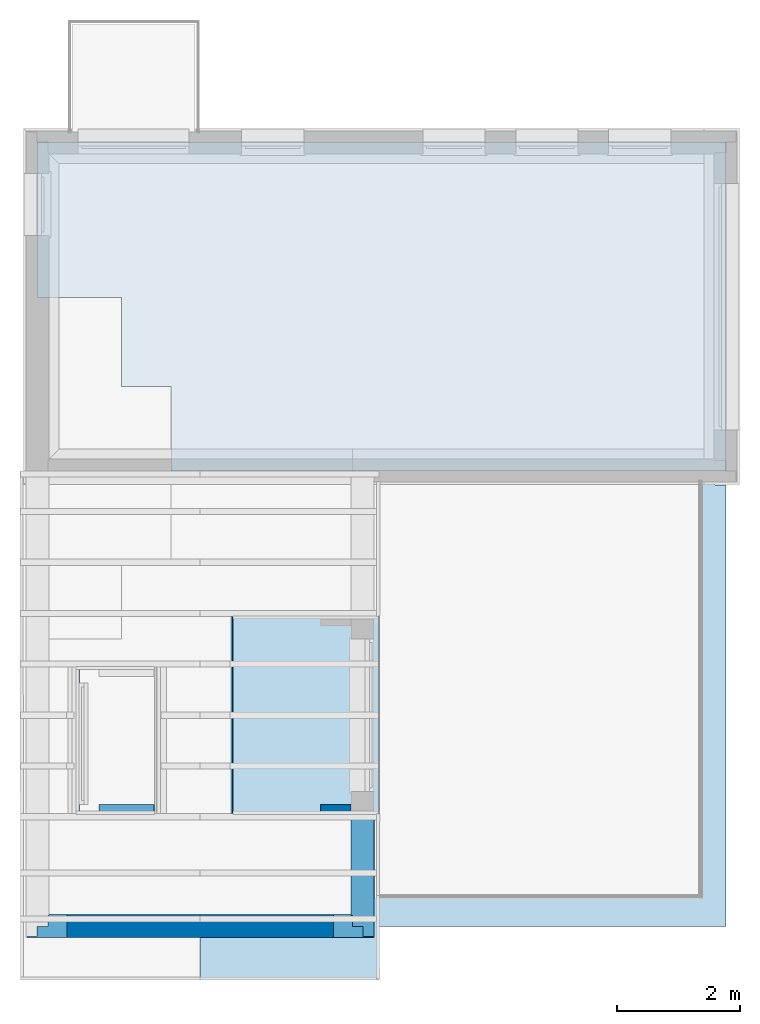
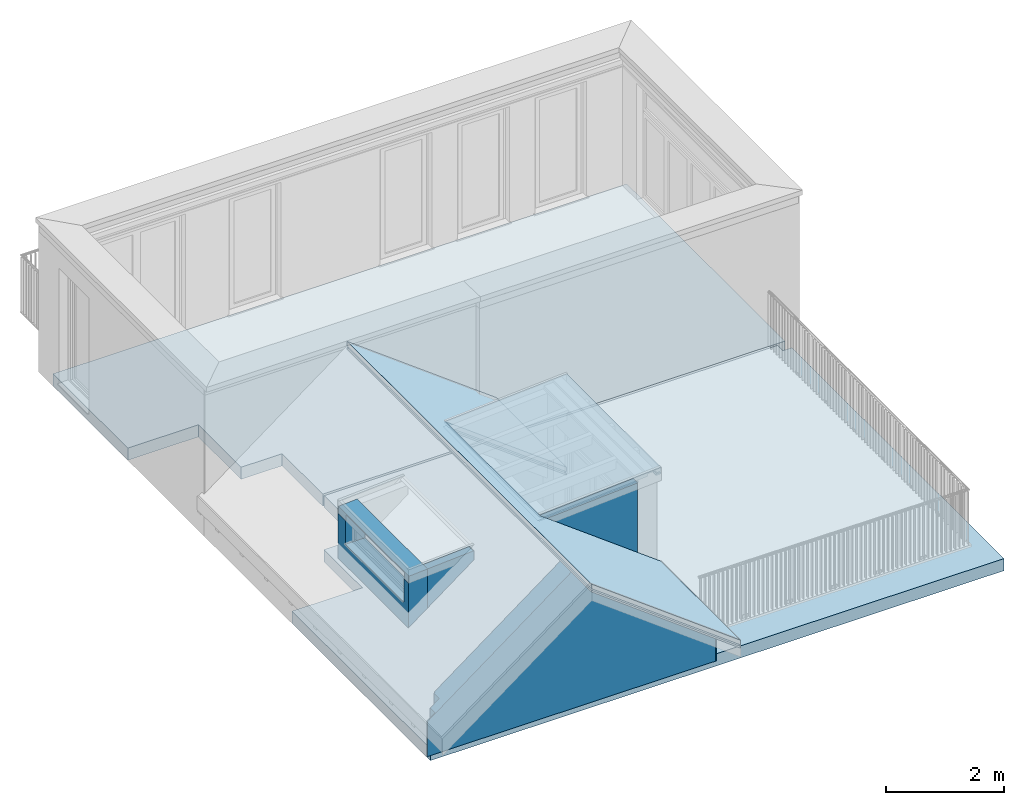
# One storey, part 7 of 15: 5 walls, 4 slabs.
"""IFC4 building model written with IfcOpenShell, lengths in metres."""

from ifc_helpers import new_model, entity, si_unit, converted_unit, derived_unit, direction, frame, origin_with_axes, place, context, subcontext, project, spatial, triangles, material, constituent, constituent_set, type_object, element, save


model = new_model("IFC4")

# Units and contexts
model_context = context("Model", 3, precision=1e-05, world=origin_with_axes(), true_north=direction((-0.526213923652, 0.850352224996)))
body_context = subcontext(model_context, "Body", "Model", "MODEL_VIEW")
ifc_project = project(units=[si_unit("LENGTHUNIT", "METRE"), si_unit("AREAUNIT", "SQUARE_METRE"), si_unit("VOLUMEUNIT", "CUBIC_METRE"), converted_unit("PLANEANGLEUNIT", "DEGREE", entity("IfcPlaneAngleMeasure", 0.0174532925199), si_unit("PLANEANGLEUNIT", "RADIAN"), dimensions=[0, 0, 0, 0, 0, 0, 0]), si_unit("SOLIDANGLEUNIT", "STERADIAN"), converted_unit("TIMEUNIT", "Year", entity("IfcTimeMeasure", 31556926.0), si_unit("TIMEUNIT", "SECOND"), dimensions=[0, 0, 1, 0, 0, 0, 0]), si_unit("MASSUNIT", "GRAM", prefix="KILO"), si_unit("THERMODYNAMICTEMPERATUREUNIT", "DEGREE_CELSIUS"), si_unit("LUMINOUSINTENSITYUNIT", "LUMEN"), si_unit("ENERGYUNIT", "JOULE", prefix="MEGA"), derived_unit("THERMALCONDUCTANCEUNIT", [(si_unit("POWERUNIT", "WATT"), 1), (si_unit("LENGTHUNIT", "METRE"), -1), (si_unit("THERMODYNAMICTEMPERATUREUNIT", "KELVIN"), -1)]), derived_unit("SPECIFICHEATCAPACITYUNIT", [(si_unit("ENERGYUNIT", "JOULE"), 1), (si_unit("MASSUNIT", "GRAM", prefix="KILO"), -1), (si_unit("THERMODYNAMICTEMPERATUREUNIT", "KELVIN"), -1)]), derived_unit("MASSDENSITYUNIT", [(si_unit("MASSUNIT", "GRAM", prefix="KILO"), 1), (si_unit("VOLUMEUNIT", "CUBIC_METRE"), -1)])], contexts=[model_context])

# Site, building, storey
site_placement = place(None, origin_with_axes())
site = spatial("IfcSite", under=ifc_project, at=site_placement, Name="Gelände", CompositionType="ELEMENT")
building_placement = place(site_placement, origin_with_axes())
building = spatial("IfcBuilding", under=site, at=building_placement, Name="Haus vom Nikolaus", CompositionType="ELEMENT")
storey_placement = place(building_placement, frame((0.0, 0.0, 3.75), z_axis=(0.0, 0.0, 1.0), x_axis=(1.0, 0.0, 0.0)))
storey = spatial("IfcBuildingStorey", under=building, at=storey_placement, Name="1. OG", CompositionType="ELEMENT", Elevation=3.75)

# Slabs
ifc_material_1 = material(Name="Beton, Stahlbeton C20/25")
slab_type_1 = type_object("IfcSlabType", Name="Beton, Stahlbeton C20/25 250", PredefinedType="FLOOR")
slab_1_placement = place(storey_placement, frame((0.0653820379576, 4.73983206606, 0.0), z_axis=(0.0, 0.0, 1.0), x_axis=(1.0, 0.0, 0.0)))
element("IfcSlab", 1, at=slab_1_placement, inside=storey, type_object=slab_type_1, material=ifc_material_1, Name="Decke-005", PredefinedType="FLOOR", context=body_context, shape_type="Tessellation", body=[
    triangles([(11.194615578, 2.50000000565, 0.0), (11.194615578, -4.67499994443, -0.25), (11.194615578, 2.50000000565, -0.25), (11.194615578, -4.67499994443, 0.0), (2.17500001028, 2.67500001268, -0.25), (11.019615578, 2.50000000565, -0.25), (2.17500001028, 1.30000001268, -0.25), (0.0, -4.6749999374, -0.25), (1.37443105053, 3.43890578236e-08, -0.25), (0.0, 0.0, -0.25), (11.019615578, 2.67500000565, -0.25), (1.374431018, 1.30000004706, -0.25), (11.019615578, 2.50000000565, 0.0), (11.019615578, 2.67500000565, 0.0), (2.17500001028, 2.67500001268, 0.0), (2.17500001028, 1.30000001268, 0.0), (1.37443105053, 3.43890578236e-08, 0.0), (1.374431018, 1.30000004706, 0.0), (0.0, -4.6749999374, 0.0), (0.0, 0.0, 0.0)], [[1, 2, 3], [1, 4, 2], [5, 6, 7], [3, 2, 6], [8, 9, 2], [9, 8, 10], [6, 5, 11], [7, 2, 9], [2, 7, 6], [12, 7, 9], [1, 6, 13], [1, 3, 6], [14, 15, 13], [16, 4, 13], [4, 16, 17], [16, 13, 15], [17, 16, 18], [4, 17, 19], [19, 17, 20], [13, 4, 1], [4, 8, 2], [4, 19, 8], [14, 6, 11], [14, 13, 6], [10, 19, 20], [10, 8, 19], [9, 20, 17], [9, 10, 20], [12, 17, 18], [12, 9, 17], [7, 18, 16], [7, 12, 18], [5, 16, 15], [5, 7, 16], [11, 15, 14], [11, 5, 15]], closed=True),
])
slab_2_placement = place(storey_placement, frame((0.0649975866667, 12.8148320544, 0.0), z_axis=(0.0, 0.0, 1.0), x_axis=(1.0, 0.0, 0.0)))
element("IfcSlab", 2, at=slab_2_placement, inside=storey, type_object=slab_type_1, material=ifc_material_1, Name="Decke-005", PredefinedType="FLOOR", context=body_context, shape_type="Tessellation", body=[
    triangles([(2.17538446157, -3.97499997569, 0.0), (11.1950000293, -5.34999994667, 0.0), (11.1950000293, -1.0898268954e-09, 0.0), (0.0, -2.52999997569, 0.0), (1.37538446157, -2.52999997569, 0.0), (0.0, 0.0, 0.0), (1.37538446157, -3.97499997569, 0.0), (2.17538446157, -5.3499999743, 0.0), (2.17538446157, -5.3499999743, -0.25), (11.1950000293, -5.34999994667, -0.25), (11.1950000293, -1.0898268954e-09, -0.25), (0.0, 0.0, -0.25), (0.0, -2.52999997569, -0.25), (1.37538446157, -2.52999997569, -0.25), (1.37538446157, -3.97499997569, -0.25), (2.17538446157, -3.97499997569, -0.25)], [[1, 2, 3], [4, 5, 6], [7, 1, 5], [6, 5, 3], [2, 1, 8], [5, 1, 3], [2, 9, 10], [2, 8, 9], [3, 10, 11], [3, 2, 10], [11, 6, 3], [11, 12, 6], [12, 4, 6], [12, 13, 4], [13, 5, 4], [13, 14, 5], [14, 7, 5], [14, 15, 7], [15, 1, 7], [15, 16, 1], [16, 8, 1], [16, 9, 8], [16, 10, 9], [10, 16, 11], [14, 11, 16], [14, 13, 12], [11, 14, 12], [15, 14, 16]], closed=True),
])

# Space
space_placement = place(storey_placement, frame((-0.115002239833, 5.36483188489, 0.0), z_axis=(0.0, 0.0, 1.0), x_axis=(-1.0, 0.0, 0.0)))
space = spatial("IfcSpace", under=storey, at=space_placement, Name="OG", CompositionType="ELEMENT")

# Slabs
ifc_material_2 = material(Name="Dach, Stehfalz")
ifc_constituent_1 = constituent(ifc_material_2, Name="Component 1")
ifc_material_3 = material(Name="Dämmung, hart Mineralwolle")
ifc_constituent_2 = constituent(ifc_material_3, Name="Component 2")
ifc_material_4 = material(Name="Holz, Bauholz")
ifc_constituent_3 = constituent(ifc_material_4, Name="Component 3")
ifc_constituent_set_1 = constituent_set(constituents=[ifc_constituent_1, ifc_constituent_2, ifc_constituent_3], Name="DA |\xa0Komplett Stehfalz-Kopie")
slab_type_2 = type_object("IfcSlabType", Name="DA |\xa0Komplett Stehfalz-Kopie 130", PredefinedType="ROOF")
slab_3_placement = place(space_placement, frame((-3.31280798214, 0.267149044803, 2.45370692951), z_axis=(0.0, 0.0, 1.0), x_axis=(0.0, 1.0, 0.0)))
element("IfcSlab", 3, at=slab_3_placement, inside=space, type_object=slab_type_2, material=ifc_constituent_set_1, Name="Dach-006", PredefinedType="ROOF", context=body_context, shape_type="Tessellation", body=[
    triangles([(3.20000000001, 2.43113579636, 0.261579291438), (0.0, 0.0805171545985, 0.110395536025), (0.0, 2.43113579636, 0.261579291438), (3.20000000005, 0.0805171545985, 0.110395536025), (3.19999999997, 0.0497016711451, 0.133465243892), (0.0, 0.0497016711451, 0.133465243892), (-1.56195056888e-10, 2.43113579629, 0.286630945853), (3.19999999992, 2.43113579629, 0.286630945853)], [[1, 2, 3], [2, 1, 4], [5, 2, 4], [2, 5, 6], [6, 7, 2], [3, 2, 7], [8, 3, 7], [8, 1, 3], [8, 4, 1], [4, 8, 5], [8, 6, 5], [8, 7, 6]], closed=True),
    triangles([(0.0, 0.0421023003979, 0.107924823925), (3.19999999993, 2.16757630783, 0.244628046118), (-1.63206337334e-10, 2.16757630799, 0.244628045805), (3.20000000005, 0.0421023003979, 0.107924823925), (3.19999999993, 2.16757630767, 0.194524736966), (-2.11096029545e-10, 2.16757630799, 0.194524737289), (0.0, 0.103733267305, 0.0617854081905), (3.2000000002, 0.103733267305, 0.0617854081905)], [[1, 2, 3], [1, 4, 2], [5, 3, 2], [3, 5, 6], [7, 3, 6], [7, 1, 3], [7, 4, 1], [7, 8, 4], [8, 2, 4], [2, 8, 5], [7, 5, 8], [5, 7, 6]], closed=True),
    triangles([(0.0, 2.42739559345, 0.211235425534), (-1.7330226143e-10, 2.32757630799, 0.254918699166), (0.0, 2.42739559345, 0.261338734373), (-2.2082247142e-10, 2.32757630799, 0.204815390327), (3.19999999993, 2.32757630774, 0.204815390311), (3.19999999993, 2.32757630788, 0.254918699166), (3.20000000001, 2.42739559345, 0.261338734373), (3.20000000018, 2.42739559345, 0.211235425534)], [[1, 2, 3], [2, 1, 4], [5, 2, 4], [2, 5, 6], [3, 6, 7], [6, 3, 2], [7, 1, 3], [7, 8, 1], [1, 5, 4], [1, 8, 5], [8, 6, 5], [8, 7, 6]], closed=True),
    triangles([(1.3586554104e-10, 0.0193041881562, 0.0313035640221), (3.19999999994, 1.99257630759, 0.158217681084), (-2.24609664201e-10, 1.99257630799, 0.158217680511), (3.20000000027, 0.0193041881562, 0.0313035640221), (3.19999999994, 1.9925763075, 0.128155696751), (-2.53587373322e-10, 1.99257630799, 0.128155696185), (0.0, 0.0562827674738, 0.00361991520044), (3.19999999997, 0.0562827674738, 0.00361991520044)], [[1, 2, 3], [1, 4, 2], [5, 3, 2], [3, 5, 6], [7, 3, 6], [7, 1, 3], [8, 1, 7], [1, 8, 4], [8, 2, 4], [2, 8, 5], [7, 5, 8], [5, 7, 6]], closed=True),
    triangles([(1.76997083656e-10, 2.42739559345, 0.156121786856), (-2.44583020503e-10, 2.32757630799, 0.179763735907), (1.00161656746e-10, 2.42739559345, 0.186183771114), (-2.73095324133e-10, 2.32757630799, 0.149701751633), (3.19999999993, 2.32757630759, 0.149701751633), (3.19999999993, 2.32757630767, 0.179763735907), (3.20000000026, 2.42739559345, 0.186183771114), (3.20000000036, 2.42739559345, 0.156121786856)], [[1, 2, 3], [2, 1, 4], [5, 2, 4], [2, 5, 6], [3, 6, 7], [6, 3, 2], [7, 1, 3], [7, 8, 1], [1, 5, 4], [1, 8, 5], [7, 6, 8], [8, 6, 5]], closed=True),
])
ifc_constituent_4 = constituent(ifc_material_2, Name="Component 1")
ifc_constituent_5 = constituent(ifc_material_3, Name="Component 2")
ifc_constituent_6 = constituent(ifc_material_4, Name="Component 3")
ifc_constituent_set_2 = constituent_set(constituents=[ifc_constituent_4, ifc_constituent_5, ifc_constituent_6], Name="DA |\xa0Komplett Stehfalz-Kopie")
slab_4_placement = place(space_placement, frame((-5.74039604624, -0.0729634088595, 0.644596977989), z_axis=(0.0, 0.0, 1.0), x_axis=(0.0, -1.0, 0.0)))
element("IfcSlab", 4, at=slab_4_placement, inside=space, type_object=slab_type_2, material=ifc_constituent_set_2, Name="Dach-008", PredefinedType="ROOF", context=body_context, shape_type="Tessellation", body=[
    triangles([(-6.23296316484, 2.90999999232, 2.34093679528), (-6.23296316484, 0.0, 0.162393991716), (-3.54011245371, 2.3470709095, 1.91950548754), (2.02703669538, 2.90999999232, 2.34093679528), (2.02703669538, 0.0, 0.162393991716), (-0.340112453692, 2.3470709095, 1.91950548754), (-0.340112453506, 0.0, 0.162393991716), (-3.54011245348, 0.0, 0.162393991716), (-0.340112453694, 2.38548576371, 1.91703477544), (-3.54011245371, 2.38548576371, 1.91703477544), (-0.340112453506, 0.0, 0.131164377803), (2.02703669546, 0.0, 0.131164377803), (2.02703669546, 2.90999999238, 2.30970718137), (-6.23296316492, 2.90999999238, 2.30970718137), (-6.23296316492, 0.0, 0.131164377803), (-3.54011245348, 0.0, 0.131164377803)], [[1, 2, 3], [4, 1, 3], [5, 4, 6], [4, 3, 6], [5, 6, 7], [8, 3, 2], [3, 9, 6], [3, 10, 9], [11, 6, 9], [6, 11, 7], [11, 5, 7], [5, 11, 12], [5, 13, 4], [13, 5, 12], [1, 13, 14], [1, 4, 13], [2, 14, 15], [2, 1, 14], [16, 2, 15], [16, 8, 2], [3, 16, 10], [16, 3, 8], [13, 12, 9], [14, 13, 9], [15, 14, 10], [14, 9, 10], [15, 10, 16], [11, 9, 12]], closed=True),
    triangles([(2.02703669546, 2.90999999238, 2.30970718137), (-6.23296316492, 2.90999999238, 2.30970718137), (-3.54011245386, 2.3238547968, 1.87089535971), (-6.23296316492, 0.0, 0.131164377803), (-0.340112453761, 2.3238547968, 1.87089535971), (2.02703669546, 0.0, 0.131164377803), (-0.340112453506, 0.0, 0.131164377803), (-3.54011245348, 0.0, 0.131164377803), (-3.54011245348, 1.60975233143e-10, 0.0687051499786), (-3.54011245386, 2.4006845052, 1.86595393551), (-0.340112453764, 2.4006845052, 1.86595393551), (-0.340112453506, 1.60975233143e-10, 0.0687051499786), (2.02703669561, 1.60975233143e-10, 0.0687051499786), (2.02703669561, 2.9099999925, 2.24724795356), (-6.23296316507, 2.9099999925, 2.24724795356), (-6.23296316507, 1.60975233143e-10, 0.0687051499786)], [[1, 2, 3], [4, 3, 2], [1, 5, 6], [1, 3, 5], [6, 5, 7], [3, 4, 8], [3, 9, 10], [3, 8, 9], [3, 11, 5], [11, 3, 10], [11, 12, 5], [5, 12, 7], [6, 12, 13], [6, 7, 12], [13, 14, 6], [1, 6, 14], [2, 14, 15], [14, 2, 1], [4, 15, 16], [15, 4, 2], [9, 4, 16], [4, 9, 8], [15, 14, 11], [13, 11, 14], [15, 10, 16], [15, 11, 10], [16, 10, 9], [11, 13, 12]], closed=True),
    triangles([(2.02703669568, 2.90999999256, 2.21601833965), (-6.23296316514, 2.90999999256, 2.21601833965), (-3.54011245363, 2.37130529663, 1.81272986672), (-6.23296316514, 2.14632756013e-10, 0.0374755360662), (-3.54011245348, 2.14632756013e-10, 0.0374755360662), (-0.340112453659, 2.37130529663, 1.81272986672), (2.02703669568, 2.14632756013e-10, 0.0374755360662), (-0.340112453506, 2.14632756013e-10, 0.0374755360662), (-3.54011245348, 2.79023026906e-10, 6.74244660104e-10), (-6.23296316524, 2.79023026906e-10, 6.74244660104e-10), (-3.54011245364, 2.41740312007, 1.8097650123), (-0.340112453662, 2.41740312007, 1.8097650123), (-0.340112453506, 2.79023026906e-10, 6.74244660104e-10), (2.02703669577, 2.79023026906e-10, 6.74244660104e-10), (2.02703669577, 2.90999999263, 2.17854280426), (-6.23296316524, 2.90999999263, 2.17854280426)], [[1, 2, 3], [3, 4, 5], [1, 3, 6], [7, 1, 6], [7, 6, 8], [3, 2, 4], [9, 4, 10], [9, 5, 4], [3, 9, 11], [3, 5, 9], [3, 12, 6], [12, 3, 11], [12, 13, 6], [8, 6, 13], [13, 7, 8], [7, 13, 14], [7, 15, 1], [15, 7, 14], [2, 15, 16], [2, 1, 15], [4, 16, 10], [4, 2, 16], [16, 15, 12], [14, 12, 15], [16, 11, 10], [16, 12, 11], [10, 11, 9], [12, 14, 13]], closed=True),
])

# Walls
ifc_material_5 = material(Name="Verputz, Zement")
ifc_constituent_7 = constituent(ifc_material_5, Name="Component 1")
ifc_material_6 = material(Name="MW Kalksandstein")
ifc_constituent_8 = constituent(ifc_material_6, Name="Component 2")
ifc_material_7 = material(Name="Dämmung, weich Mineralwolle 2")
ifc_constituent_9 = constituent(ifc_material_7, Name="Component 3")
ifc_constituent_10 = constituent(ifc_material_5, Name="Component 4")
ifc_constituent_set_3 = constituent_set(constituents=[ifc_constituent_7, ifc_constituent_8, ifc_constituent_9, ifc_constituent_10], Name="WA | 2 Schichtig KS")
wall_type_1 = type_object("IfcWallType", Name="WA | 2 Schichtig KS 375", PredefinedType="NOTDEFINED")
wall_1_placement = place(space_placement, frame((-5.28538429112, 5.10499975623, 0.0), z_axis=(0.0, 0.0, 1.0), x_axis=(1.43109211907e-09, -1.0, 0.0)))
element("IfcWall", 5, at=wall_1_placement, inside=space, type_object=wall_type_1, material=ifc_constituent_set_3, Name="Wand-012", context=body_context, shape_type="Tessellation", body=[
    triangles([(1.63785073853, -2.34391528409e-09, 0.0), (-0.02, -0.0199999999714, 0.0), (-0.02, 0.0, 0.0), (1.6378507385, -0.0200000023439, 0.0), (-0.02, -0.0199999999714, 0.97026423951), (-0.02, 0.0, 0.985237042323), (1.63785073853, -2.34391528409e-09, 0.985237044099), (1.6378507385, -0.0200000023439, 0.970264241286)], [[1, 2, 3], [1, 4, 2], [5, 3, 2], [5, 6, 3], [1, 6, 7], [6, 1, 3], [1, 8, 4], [1, 7, 8], [4, 5, 2], [4, 8, 5], [6, 8, 7], [8, 6, 5]], closed=True),
    triangles([(-0.195, -0.194999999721, 0.0), (1.63785073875, -0.0200000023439, 0.0), (1.6378507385, -0.195000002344, 0.0), (-0.195, -0.0199999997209, 0.0), (-0.195, -0.0199999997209, 0.970264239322), (1.63785073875, -0.0200000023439, 0.970264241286), (1.6378507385, -0.195000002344, 0.839252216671), (-0.195, -0.194999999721, 0.839252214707)], [[1, 2, 3], [2, 1, 4], [5, 2, 4], [2, 5, 6], [7, 2, 6], [2, 7, 3], [8, 3, 7], [3, 8, 1], [4, 8, 5], [8, 4, 1], [7, 5, 8], [5, 7, 6]], closed=True),
    triangles([(-0.355, -0.354999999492, 0.0), (1.63785073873, -0.195000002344, 0.0), (1.6378507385, -0.355000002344, 0.0), (-0.355, -0.194999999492, 0.0), (-0.355, -0.194999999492, 0.839252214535), (1.63785073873, -0.195000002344, 0.839252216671), (1.6378507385, -0.355000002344, 0.719469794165), (-0.355, -0.354999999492, 0.71946979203)], [[1, 2, 3], [2, 1, 4], [5, 2, 4], [2, 5, 6], [7, 2, 6], [2, 7, 3], [8, 3, 7], [3, 8, 1], [4, 8, 5], [8, 4, 1], [7, 5, 8], [5, 7, 6]], closed=True),
    triangles([(-0.375, -0.374999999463, 0.0), (1.63785073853, -0.355000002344, 0.0), (1.6378507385, -0.375000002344, 0.0), (-0.375, -0.354999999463, 0.0), (-0.375, -0.354999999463, 0.719469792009), (1.63785073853, -0.355000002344, 0.719469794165), (1.6378507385, -0.375000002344, 0.704496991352), (-0.375, -0.374999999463, 0.704496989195)], [[1, 2, 3], [2, 1, 4], [5, 2, 4], [2, 5, 6], [7, 2, 6], [2, 7, 3], [8, 3, 7], [3, 8, 1], [4, 8, 5], [8, 4, 1], [7, 5, 8], [5, 7, 6]], closed=True),
])
ifc_constituent_11 = constituent(ifc_material_5, Name="Component 1")
ifc_constituent_12 = constituent(ifc_material_7, Name="Component 2")
ifc_constituent_13 = constituent(ifc_material_6, Name="Component 3")
ifc_constituent_14 = constituent(ifc_material_5, Name="Component 4")
ifc_constituent_set_4 = constituent_set(constituents=[ifc_constituent_11, ifc_constituent_12, ifc_constituent_13, ifc_constituent_14], Name="WA | 2 Schichtig KS")
wall_2_placement = place(space_placement, frame((-5.28538429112, 5.10499975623, 0.0), z_axis=(0.0, 0.0, 1.0), x_axis=(1.0, 1.43109178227e-09, 0.0)))
element("IfcWall", 6, at=wall_2_placement, inside=space, type_object=wall_type_1, material=ifc_constituent_set_4, Name="Wand-012", context=body_context, shape_type="Tessellation", body=[
    triangles([(5.26536606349, 0.354999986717, 0.719178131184), (2.45498823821, 0.354999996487, 2.82313978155), (5.26536606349, 0.354999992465, 0.0), (-0.354999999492, 0.355000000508, 0.0), (-0.354999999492, 0.355000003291, 0.71946979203), (2.45498823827, 0.374999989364, 2.82313978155), (-0.354999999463, 0.375, 0.719469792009), (-0.354999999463, 0.375, 0.0), (5.26536502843, 0.374999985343, 0.0), (5.26536502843, 0.374999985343, 0.719178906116)], [[1, 2, 3], [4, 2, 5], [4, 3, 2], [6, 5, 2], [5, 6, 7], [8, 5, 7], [8, 4, 5], [9, 4, 8], [9, 3, 4], [9, 1, 3], [9, 10, 1], [10, 2, 1], [2, 10, 6], [6, 8, 7], [9, 6, 10], [8, 6, 9]], closed=True),
    triangles([(5.10537434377, 0.194999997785, 0.838954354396), (2.45498823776, 0.194999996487, 2.82313978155), (5.10537434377, 0.194999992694, 0.0), (-0.194999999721, 0.195000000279, 0.0), (-0.194999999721, 0.194999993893, 0.839252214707), (2.45498823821, 0.354999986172, 2.82313978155), (-0.194999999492, 0.355000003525, 0.839252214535), (-0.194999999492, 0.355000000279, 0.0), (5.10536606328, 0.354999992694, 0.0), (5.10536606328, 0.354999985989, 0.83896055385)], [[1, 2, 3], [4, 2, 5], [4, 3, 2], [6, 5, 2], [5, 6, 7], [4, 7, 8], [7, 4, 5], [9, 4, 8], [9, 3, 4], [9, 1, 3], [9, 10, 1], [10, 2, 1], [2, 10, 6], [6, 8, 7], [9, 6, 10], [8, 6, 9]], closed=True),
    triangles([(4.93038340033, 0.0199999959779, 0.969959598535), (2.45498823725, 0.0199999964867, 2.82313978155), (4.93038340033, 0.0199999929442, 0.0), (-0.0199999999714, 0.0200000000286, 0.0), (-0.0199999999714, 0.0199999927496, 0.97026423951), (-0.0199999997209, 0.194999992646, 0.970264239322), (2.45498823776, 0.195000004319, 2.82313978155), (-0.0199999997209, 0.195000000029, 0.0), (4.93037434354, 0.194999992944, 0.0), (4.93037434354, 0.194999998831, 0.969966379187)], [[1, 2, 3], [4, 2, 5], [4, 3, 2], [2, 6, 5], [2, 7, 6], [4, 6, 8], [6, 4, 5], [9, 4, 8], [9, 3, 4], [9, 1, 3], [9, 10, 1], [10, 2, 1], [2, 10, 7], [7, 8, 6], [9, 7, 10], [8, 7, 9]], closed=True),
    triangles([(4.91038443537, -7.02721125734e-09, 0.984931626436), (2.4549882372, -3.51331364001e-09, 2.82313978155), (4.91038443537, -7.02721125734e-09, 0.0), (0.0, 0.0, 0.0), (0.0, 0.0, 0.985237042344), (0.0, 0.0199999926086, 0.985237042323), (2.45498823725, 0.0200000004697, 2.82313978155), (0.0, 0.02, 0.0), (4.9103834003, 0.0199999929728, 0.0), (4.9103834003, 0.0199999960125, 0.984932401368)], [[1, 2, 3], [4, 2, 5], [4, 3, 2], [2, 6, 5], [2, 7, 6], [4, 6, 8], [6, 4, 5], [9, 4, 8], [9, 3, 4], [9, 1, 3], [9, 10, 1], [10, 2, 1], [2, 10, 7], [7, 8, 6], [9, 7, 10], [8, 7, 9]], closed=True),
])
ifc_constituent_15 = constituent(ifc_material_5, Name="Component 1")
ifc_constituent_16 = constituent(ifc_material_7, Name="Component 2")
ifc_constituent_17 = constituent(ifc_material_6, Name="Component 3")
ifc_constituent_18 = constituent(ifc_material_5, Name="Component 4")
ifc_constituent_set_5 = constituent_set(constituents=[ifc_constituent_15, ifc_constituent_16, ifc_constituent_17, ifc_constituent_18], Name="WA | 2 Schichtig KS")
wall_3_placement = place(space_placement, frame((-1.18637759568, 3.4671490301, 0.15), z_axis=(0.0, 0.0, 1.0), x_axis=(-2.86144221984e-10, -1.0, 0.0)))
element("IfcWall", 7, at=wall_3_placement, inside=space, type_object=wall_type_1, material=ifc_constituent_set_5, Name="Wand-012", context=body_context, shape_type="Tessellation", body=[
    triangles([(2.37999996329, 0.355000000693, 2.06895484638), (-1.51632075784e-08, 0.355, 2.06895484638), (0.150000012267, 0.355000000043, 2.04795486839), (2.12047401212, 0.355000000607, 1.44795486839), (2.12047401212, 0.355000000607, 2.04795486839), (0.150000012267, 0.355000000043, 1.44795486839), (-1.4174852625e-08, 0.355, 1.0203913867), (2.37999996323, 0.355000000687, 1.0203913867), (2.37999996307, 0.375000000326, 1.00541858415), (-1.41805756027e-08, 0.374999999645, 1.00541858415), (2.37999996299, 0.375, 1.92795486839), (2.37999996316, 0.365, 1.92795486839), (2.37999996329, 0.365000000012, 2.06831168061), (-1.51691816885e-08, 0.364999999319, 2.06831168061), (-1.04442676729e-10, 0.364999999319, 1.92795486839), (-1.47846337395e-08, 0.374999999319, 1.92795486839), (2.12047401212, 0.364999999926, 2.04795486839), (2.12047401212, 0.364999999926, 1.92795486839), (2.12047401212, 0.374999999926, 1.44795486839), (2.12047401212, 0.374999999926, 1.92795486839), (0.150000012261, 0.374999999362, 1.44795486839), (0.150000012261, 0.374999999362, 1.92795486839), (0.150000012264, 0.364999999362, 1.92795486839), (0.150000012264, 0.364999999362, 2.04795486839)], [[1, 2, 3], [4, 1, 5], [6, 7, 4], [1, 4, 8], [3, 2, 6], [8, 4, 7], [7, 6, 2], [1, 3, 5], [7, 9, 8], [7, 10, 9], [9, 11, 8], [1, 8, 12], [12, 8, 11], [1, 12, 13], [13, 2, 1], [2, 13, 14], [15, 2, 14], [7, 2, 15], [7, 16, 10], [16, 7, 15], [17, 18, 5], [4, 5, 18], [18, 19, 4], [19, 18, 20], [6, 19, 21], [6, 4, 19], [22, 23, 21], [3, 6, 23], [3, 23, 24], [21, 23, 6], [5, 24, 17], [5, 3, 24], [11, 19, 20], [21, 16, 22], [10, 19, 9], [16, 21, 10], [19, 10, 21], [19, 11, 9], [18, 11, 20], [11, 18, 12], [23, 15, 24], [12, 17, 13], [14, 13, 17], [17, 12, 18], [14, 17, 24], [14, 24, 15], [22, 15, 23], [15, 22, 16]], closed=True),
    triangles([(2.3799999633, 0.195000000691, 2.0792454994), (-1.50676238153e-08, 0.195, 2.0792454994), (0.150000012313, 0.195000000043, 2.04795486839), (2.12047401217, 0.195000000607, 1.44795486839), (2.12047401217, 0.195000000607, 2.04795486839), (0.150000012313, 0.195000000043, 1.44795486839), (-1.41290692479e-08, 0.195, 1.14017380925), (2.37999996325, 0.195000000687, 1.14017380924), (-1.4174852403e-08, 0.355000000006, 1.0203913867), (2.37999996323, 0.355000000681, 1.0203913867), (2.37999996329, 0.355000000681, 2.06895484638), (-1.51632078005e-08, 0.355000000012, 2.06895484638), (2.12047401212, 0.355000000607, 1.44795486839), (2.12047401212, 0.355000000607, 2.04795486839), (0.150000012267, 0.355000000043, 1.44795486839), (0.150000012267, 0.355000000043, 2.04795486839)], [[1, 2, 3], [4, 1, 5], [6, 7, 4], [1, 4, 8], [3, 2, 6], [8, 4, 7], [7, 6, 2], [1, 3, 5], [9, 8, 7], [8, 9, 10], [10, 11, 8], [1, 8, 11], [11, 2, 1], [2, 11, 12], [12, 7, 2], [7, 12, 9], [5, 13, 4], [13, 5, 14], [6, 13, 15], [6, 4, 13], [3, 15, 16], [3, 6, 15], [3, 14, 5], [14, 3, 16], [12, 11, 14], [12, 15, 9], [9, 13, 10], [15, 12, 16], [14, 11, 13], [13, 9, 15], [10, 13, 11], [12, 14, 16]], closed=True),
    triangles([(2.3799999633, 0.0200000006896, 2.09050090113), (-1.4963078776e-08, 0.02, 2.09050090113), (0.150000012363, 0.0200000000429, 2.04795486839), (2.12047401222, 0.0200000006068, 1.44795486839), (2.12047401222, 0.0200000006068, 2.04795486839), (0.150000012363, 0.0200000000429, 1.44795486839), (-1.40789941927e-08, 0.02, 1.2711858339), (2.37999996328, 0.0200000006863, 1.2711858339), (-1.41290692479e-08, 0.195000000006, 1.14017380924), (2.37999996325, 0.195000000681, 1.14017380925), (2.3799999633, 0.195000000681, 2.0792454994), (-1.50676235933e-08, 0.19500000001, 2.0792454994), (2.12047401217, 0.195000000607, 2.04795486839), (2.12047401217, 0.195000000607, 1.44795486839), (0.150000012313, 0.195000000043, 1.44795486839), (0.150000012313, 0.195000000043, 2.04795486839)], [[1, 2, 3], [4, 1, 5], [6, 7, 4], [1, 4, 8], [3, 2, 6], [8, 4, 7], [7, 6, 2], [1, 3, 5], [9, 8, 7], [8, 9, 10], [10, 11, 8], [1, 8, 11], [11, 2, 1], [2, 11, 12], [12, 7, 2], [7, 12, 9], [4, 13, 14], [4, 5, 13], [6, 14, 15], [6, 4, 14], [6, 16, 3], [16, 6, 15], [5, 16, 13], [5, 3, 16], [12, 11, 13], [12, 13, 16], [14, 9, 15], [14, 11, 10], [12, 15, 9], [15, 12, 16], [9, 14, 10], [11, 14, 13]], closed=True),
    triangles([(2.3799999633, 6.89446499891e-10, 2.09178723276), (-1.49511309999e-08, 0.0, 2.09178723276), (0.150000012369, 0.0, 2.04795486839), (2.12047401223, 6.06761529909e-10, 1.44795486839), (2.12047401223, 6.06761529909e-10, 2.04795486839), (0.150000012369, 0.0, 1.44795486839), (-1.40732712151e-08, 0.0, 1.28615863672), (2.37999996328, 6.86202428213e-10, 1.28615863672), (-1.40789941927e-08, 0.0200000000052, 1.2711858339), (2.37999996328, 0.020000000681, 1.2711858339), (2.3799999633, 0.020000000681, 2.09050090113), (-1.49630789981e-08, 0.0200000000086, 2.09050090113), (2.12047401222, 0.0200000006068, 2.04795486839), (2.12047401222, 0.0200000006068, 1.44795486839), (0.150000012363, 0.0200000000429, 1.44795486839), (0.150000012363, 0.0200000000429, 2.04795486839)], [[1, 2, 3], [4, 1, 5], [6, 7, 4], [1, 4, 8], [3, 2, 6], [8, 4, 7], [7, 6, 2], [1, 3, 5], [9, 8, 7], [8, 9, 10], [10, 11, 8], [1, 8, 11], [11, 2, 1], [2, 11, 12], [12, 7, 2], [7, 12, 9], [4, 13, 14], [4, 5, 13], [6, 14, 15], [6, 4, 14], [3, 15, 16], [3, 6, 15], [3, 13, 5], [13, 3, 16], [12, 11, 13], [12, 13, 16], [14, 9, 15], [14, 11, 10], [12, 15, 9], [15, 12, 16], [9, 14, 10], [11, 14, 13]], closed=True),
])
ifc_material_8 = material(Name="Gipskarton")
ifc_constituent_19 = constituent(ifc_material_8, Name="Component 1")
ifc_constituent_20 = constituent(ifc_material_8, Name="Component 2")
ifc_material_9 = material(Name="Dämmung, weich Glaswolle")
ifc_constituent_21 = constituent(ifc_material_9, Name="Component 3")
ifc_constituent_22 = constituent(ifc_material_8, Name="Component 4")
ifc_constituent_23 = constituent(ifc_material_8, Name="Component 5")
ifc_constituent_set_6 = constituent_set(constituents=[ifc_constituent_19, ifc_constituent_20, ifc_constituent_21, ifc_constituent_22, ifc_constituent_23], Name="WI |\xa0GK 15 2-lagig")
wall_type_2 = type_object("IfcWallType", Name="WI |\xa0GK 15 2-lagig 150", PredefinedType="NOTDEFINED")
wall_4_placement = place(space_placement, frame((-3.31280798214, 3.46714904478, 0.0), z_axis=(0.0, 0.0, 1.0), x_axis=(-1.0, -1.37114647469e-08, 0.0)))
element("IfcWall", 8, at=wall_4_placement, inside=space, type_object=wall_type_2, material=ifc_constituent_set_6, Name="Wand-012", context=body_context, shape_type="Tessellation", body=[
    triangles([(1.97257631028, 0.149999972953, 2.58057629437), (1.97257631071, 0.137499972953, 0.829088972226), (1.97257631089, 0.149999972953, 0.82908897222), (1.97257631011, 0.137499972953, 2.58057629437), (2.05671968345e-09, 0.15, 2.305838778), (1.88532611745e-09, 0.1375, 2.305838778), (0.0101849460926, 0.14999999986, 2.45436199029), (2.05671968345e-09, 0.15, 2.46198684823), (0.0101849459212, 0.13749999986, 2.45436199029), (1.88532611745e-09, 0.1375, 2.46198684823)], [[1, 2, 3], [1, 4, 2], [2, 5, 3], [2, 6, 5], [7, 5, 8], [1, 5, 7], [5, 1, 3], [1, 9, 4], [1, 7, 9], [4, 9, 6], [4, 6, 2], [10, 6, 9], [10, 5, 6], [10, 8, 5], [10, 7, 8], [7, 10, 9]], closed=True),
    triangles([(1.97257631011, 0.137499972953, 2.58057629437), (1.97257631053, 0.124999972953, 0.829088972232), (1.97257631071, 0.137499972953, 0.829088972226), (1.97257630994, 0.124999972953, 2.58057629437), (1.88532611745e-09, 0.1375, 2.305838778), (1.71393299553e-09, 0.125, 2.305838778), (0.0101849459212, 0.13749999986, 2.45436199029), (1.88532611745e-09, 0.1375, 2.46198684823), (0.0101849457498, 0.12499999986, 2.45436199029), (1.71393299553e-09, 0.125, 2.46198684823)], [[1, 2, 3], [1, 4, 2], [2, 5, 3], [2, 6, 5], [7, 5, 8], [1, 5, 7], [5, 1, 3], [1, 9, 4], [1, 7, 9], [4, 9, 6], [4, 6, 2], [10, 6, 9], [10, 5, 6], [10, 8, 5], [10, 7, 8], [7, 10, 9]], closed=True),
    triangles([(1.97257630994, 0.124999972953, 2.58057629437), (1.9725763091, 0.0249999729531, 0.82908897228), (1.97257631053, 0.124999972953, 0.829088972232), (1.97257630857, 0.0249999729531, 2.58057629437), (1.71393299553e-09, 0.125, 2.305838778), (3.42786687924e-10, 0.025, 2.305838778), (0.0101849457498, 0.12499999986, 2.45436199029), (1.71393299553e-09, 0.125, 2.46198684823), (0.0101849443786, 0.0249999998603, 2.45436199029), (3.42786687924e-10, 0.025, 2.46198684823)], [[1, 2, 3], [1, 4, 2], [2, 5, 3], [2, 6, 5], [7, 5, 8], [1, 5, 7], [5, 1, 3], [1, 9, 4], [1, 7, 9], [4, 9, 6], [4, 6, 2], [10, 6, 9], [10, 5, 6], [10, 8, 5], [8, 9, 7], [8, 10, 9]], closed=True),
    triangles([(1.97257630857, 0.0249999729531, 2.58057629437), (1.97257630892, 0.0124999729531, 0.829088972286), (1.9725763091, 0.0249999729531, 0.82908897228), (1.9725763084, 0.0124999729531, 2.58057629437), (3.42786687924e-10, 0.025, 2.305838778), (1.71393121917e-10, 0.0125, 2.305838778), (0.0101849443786, 0.0249999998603, 2.45436199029), (3.42786687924e-10, 0.025, 2.46198684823), (0.0101849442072, 0.0124999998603, 2.45436199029), (1.71393121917e-10, 0.0125, 2.46198684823)], [[1, 2, 3], [1, 4, 2], [2, 5, 3], [2, 6, 5], [7, 5, 8], [1, 5, 7], [5, 1, 3], [1, 9, 4], [1, 7, 9], [4, 9, 6], [4, 6, 2], [10, 6, 9], [10, 5, 6], [10, 8, 5], [8, 9, 7], [8, 10, 9]], closed=True),
    triangles([(1.97257631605, -2.7046910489e-08, 1.14763102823), (1.97257631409, -2.64418211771e-08, 0.82908896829), (1.97257630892, 0.0124999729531, 0.829088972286), (1.9725763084, 0.0124999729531, 2.58057629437), (1.97257630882, -2.73609883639e-08, 2.58057629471), (0.0, 6.05089311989e-10, 2.305838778), (1.71393121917e-10, 0.0125, 2.305838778), (0.0101849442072, 0.0124999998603, 2.45436199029), (1.71393121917e-10, 0.0125, 2.46198684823), (0.0101849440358, -1.39439348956e-10, 2.45436199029), (0.0, 0.0, 2.46198684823)], [[1, 2, 3], [1, 4, 5], [4, 1, 3], [6, 3, 2], [3, 6, 7], [8, 7, 9], [4, 7, 8], [7, 4, 3], [4, 10, 5], [4, 8, 10], [5, 10, 6], [5, 6, 1], [1, 6, 2], [11, 6, 10], [9, 6, 11], [6, 9, 7], [9, 10, 8], [9, 11, 10]], closed=True),
])
ifc_constituent_24 = constituent(ifc_material_8, Name="Component 1")
ifc_constituent_25 = constituent(ifc_material_8, Name="Component 2")
ifc_constituent_26 = constituent(ifc_material_9, Name="Component 3")
ifc_constituent_27 = constituent(ifc_material_8, Name="Component 4")
ifc_constituent_28 = constituent(ifc_material_8, Name="Component 5")
ifc_constituent_set_7 = constituent_set(constituents=[ifc_constituent_24, ifc_constituent_25, ifc_constituent_26, ifc_constituent_27, ifc_constituent_28], Name="WI |\xa0GK 15 2-lagig")
wall_5_placement = place(space_placement, frame((-2.08843666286, 3.4671490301, 0.0), z_axis=(0.0, 0.0, 1.0), x_axis=(1.0, 0.0, 0.0)))
element("IfcWall", 9, at=wall_5_placement, inside=space, type_object=wall_type_2, material=ifc_constituent_set_7, Name="Wand-012", context=body_context, shape_type="Tessellation", body=[
    triangles([(0.0, -0.0125, 2.30515473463), (0.0, 1.4073270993e-08, 2.11147626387), (0.0, -0.0125, 2.11147626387), (0.0, 1.47269150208e-08, 2.30515473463), (0.902059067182, 1.40732712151e-08, 1.43615863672), (0.902059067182, -0.0125, 1.43615863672), (0.902059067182, -0.0125, 2.24178723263), (0.00781815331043, -0.0125, 2.29930175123), (0.00781815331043, 1.46727934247e-08, 2.29930175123), (0.902059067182, 1.49511307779e-08, 2.24178723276)], [[1, 2, 3], [1, 4, 2], [5, 3, 2], [3, 5, 6], [7, 8, 3], [7, 3, 6], [1, 3, 8], [1, 9, 4], [1, 8, 9], [9, 2, 4], [10, 2, 9], [2, 10, 5], [7, 5, 10], [5, 7, 6], [10, 8, 7], [8, 10, 9]], closed=True),
    triangles([(0.0, -0.0125, 2.30515473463), (0.0, -0.025, 2.11147626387), (0.0, -0.025, 2.30515473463), (0.0, -0.0125, 2.11147626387), (0.902059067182, -0.0125, 1.43615863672), (0.902059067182, -0.025, 1.43615863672), (0.902059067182, -0.025, 2.24178723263), (0.00781815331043, -0.025, 2.29930175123), (0.00781815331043, -0.0125, 2.29930175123), (0.902059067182, -0.0125, 2.24178723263)], [[1, 2, 3], [2, 1, 4], [5, 2, 4], [2, 5, 6], [7, 8, 2], [7, 2, 6], [3, 2, 8], [8, 1, 3], [1, 8, 9], [9, 4, 1], [10, 4, 9], [4, 10, 5], [10, 6, 5], [10, 7, 6], [7, 9, 8], [7, 10, 9]], closed=True),
    triangles([(0.0, -0.125, 2.30515473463), (0.0, -0.025, 2.11147626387), (0.0, -0.125, 2.11147626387), (0.0, -0.025, 2.30515473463), (0.902059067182, -0.025, 1.43615863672), (0.902059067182, -0.125, 1.43615863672), (0.902059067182, -0.125, 2.24178723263), (0.00781815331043, -0.125, 2.29930175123), (0.00781815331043, -0.025, 2.29930175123), (0.902059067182, -0.025, 2.24178723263)], [[1, 2, 3], [1, 4, 2], [5, 3, 2], [3, 5, 6], [7, 8, 3], [7, 3, 6], [1, 3, 8], [1, 9, 4], [1, 8, 9], [9, 2, 4], [10, 2, 9], [2, 10, 5], [10, 6, 5], [10, 7, 6], [7, 9, 8], [7, 10, 9]], closed=True),
    triangles([(0.0, -0.1375, 2.30515473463), (0.0, -0.125, 2.11147626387), (0.0, -0.1375, 2.11147626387), (0.0, -0.125, 2.30515473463), (0.902059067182, -0.125, 1.43615863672), (0.902059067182, -0.1375, 1.43615863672), (0.902059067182, -0.1375, 2.24178723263), (0.00781815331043, -0.1375, 2.29930175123), (0.00781815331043, -0.125, 2.29930175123), (0.902059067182, -0.125, 2.24178723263)], [[1, 2, 3], [1, 4, 2], [5, 3, 2], [3, 5, 6], [7, 8, 3], [7, 3, 6], [1, 3, 8], [1, 9, 4], [1, 8, 9], [9, 2, 4], [10, 2, 9], [2, 10, 5], [7, 5, 10], [5, 7, 6], [7, 9, 8], [7, 10, 9]], closed=True),
    triangles([(0.0, -0.15, 2.30515473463), (0.0, -0.1375, 2.11147626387), (0.0, -0.15, 2.11147626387), (0.0, -0.1375, 2.30515473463), (0.902059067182, -0.1375, 1.43615863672), (0.902059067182, -0.15, 1.43615863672), (0.902059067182, -0.15, 2.24178723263), (0.00781815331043, -0.15, 2.29930175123), (0.00781815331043, -0.1375, 2.29930175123), (0.902059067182, -0.1375, 2.24178723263)], [[1, 2, 3], [1, 4, 2], [5, 3, 2], [3, 5, 6], [7, 8, 3], [7, 3, 6], [1, 3, 8], [1, 9, 4], [1, 8, 9], [9, 2, 4], [10, 2, 9], [2, 10, 5], [7, 5, 10], [5, 7, 6], [7, 9, 8], [7, 10, 9]], closed=True),
])

save(model, "model.ifc")
